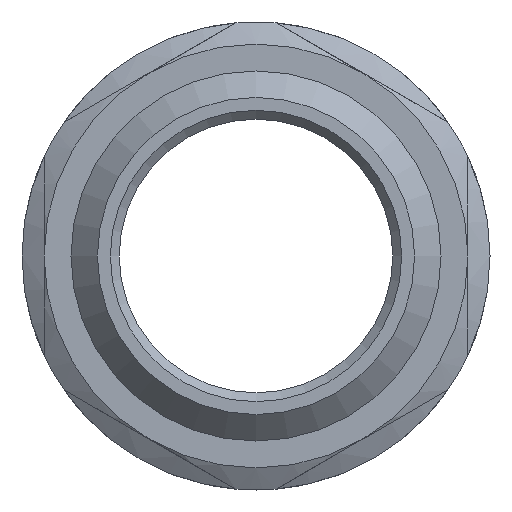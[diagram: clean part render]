
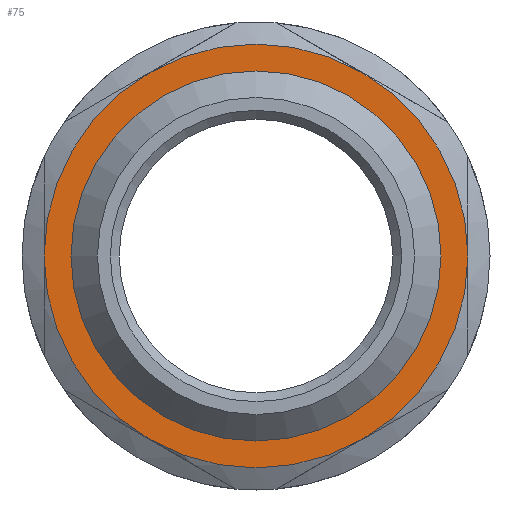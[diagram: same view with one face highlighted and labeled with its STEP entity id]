
A CAD part, front view. The second image highlights one B-rep face of the part: STEP entity #75.
In plain terms, the highlighted planar face has unit normal (0, -1, 0).
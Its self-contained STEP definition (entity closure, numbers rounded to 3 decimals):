
#75=ADVANCED_FACE('',(#320,#322),#324,.F.);
#320=FACE_BOUND('',#321,.T.);
#321=EDGE_LOOP('',(#455,#456,#457,#458,#459,#460));
#322=FACE_BOUND('',#323,.T.);
#323=EDGE_LOOP('',(#461));
#324=PLANE('',#325);
#325=AXIS2_PLACEMENT_3D('',#326,#327,#328);
#326=CARTESIAN_POINT('',(0.,0.,0.));
#327=DIRECTION('',(0.,1.,0.));
#328=DIRECTION('',(-1.,0.,0.));
#455=ORIENTED_EDGE('',*,*,#510,.T.);
#456=ORIENTED_EDGE('',*,*,#506,.T.);
#457=ORIENTED_EDGE('',*,*,#526,.T.);
#458=ORIENTED_EDGE('',*,*,#522,.T.);
#459=ORIENTED_EDGE('',*,*,#518,.T.);
#460=ORIENTED_EDGE('',*,*,#514,.T.);
#461=ORIENTED_EDGE('',*,*,#502,.F.);
#502=EDGE_CURVE('',#603,#603,#604,.T.);
#506=EDGE_CURVE('',#609,#606,#610,.F.);
#510=EDGE_CURVE('',#614,#609,#615,.F.);
#514=EDGE_CURVE('',#619,#614,#620,.F.);
#518=EDGE_CURVE('',#625,#619,#626,.F.);
#522=EDGE_CURVE('',#630,#625,#631,.F.);
#526=EDGE_CURVE('',#606,#630,#636,.F.);
#603=VERTEX_POINT('',#815);
#604=CIRCLE('',#816,10.478);
#606=VERTEX_POINT('',#868);
#609=VERTEX_POINT('',#923);
#610=CIRCLE('',#924,12.);
#614=VERTEX_POINT('',#1011);
#615=CIRCLE('',#1012,12.);
#619=VERTEX_POINT('',#1099);
#620=CIRCLE('',#1100,12.);
#625=VERTEX_POINT('',#1203);
#626=CIRCLE('',#1204,12.);
#630=VERTEX_POINT('',#1291);
#631=CIRCLE('',#1292,12.);
#636=CIRCLE('',#1380,12.);
#815=CARTESIAN_POINT('',(0.,0.,10.478));
#816=AXIS2_PLACEMENT_3D('',#817,#818,#819);
#817=CARTESIAN_POINT('',(0.,0.,0.));
#818=DIRECTION('',(0.,-1.,0.));
#819=DIRECTION('',(0.,0.,1.));
#868=CARTESIAN_POINT('',(-12.,0.,0.));
#923=CARTESIAN_POINT('',(-6.,0.,10.392));
#924=AXIS2_PLACEMENT_3D('',#925,#926,#927);
#925=CARTESIAN_POINT('',(0.,0.,0.));
#926=DIRECTION('',(0.,1.,0.));
#927=DIRECTION('',(-1.,0.,0.));
#1011=CARTESIAN_POINT('',(6.,0.,10.392));
#1012=AXIS2_PLACEMENT_3D('',#1013,#1014,#1015);
#1013=CARTESIAN_POINT('',(0.,0.,0.));
#1014=DIRECTION('',(0.,1.,0.));
#1015=DIRECTION('',(-0.5,0.,0.866));
#1099=CARTESIAN_POINT('',(12.,0.,0.));
#1100=AXIS2_PLACEMENT_3D('',#1101,#1102,#1103);
#1101=CARTESIAN_POINT('',(0.,0.,0.));
#1102=DIRECTION('',(0.,1.,0.));
#1103=DIRECTION('',(0.5,0.,0.866));
#1203=CARTESIAN_POINT('',(6.,0.,-10.392));
#1204=AXIS2_PLACEMENT_3D('',#1205,#1206,#1207);
#1205=CARTESIAN_POINT('',(0.,0.,0.));
#1206=DIRECTION('',(0.,1.,0.));
#1207=DIRECTION('',(1.,0.,0.));
#1291=CARTESIAN_POINT('',(-6.,0.,-10.392));
#1292=AXIS2_PLACEMENT_3D('',#1293,#1294,#1295);
#1293=CARTESIAN_POINT('',(0.,0.,0.));
#1294=DIRECTION('',(0.,1.,0.));
#1295=DIRECTION('',(0.5,0.,-0.866));
#1380=AXIS2_PLACEMENT_3D('',#1381,#1382,#1383);
#1381=CARTESIAN_POINT('',(0.,0.,0.));
#1382=DIRECTION('',(0.,1.,0.));
#1383=DIRECTION('',(-0.5,0.,-0.866));
